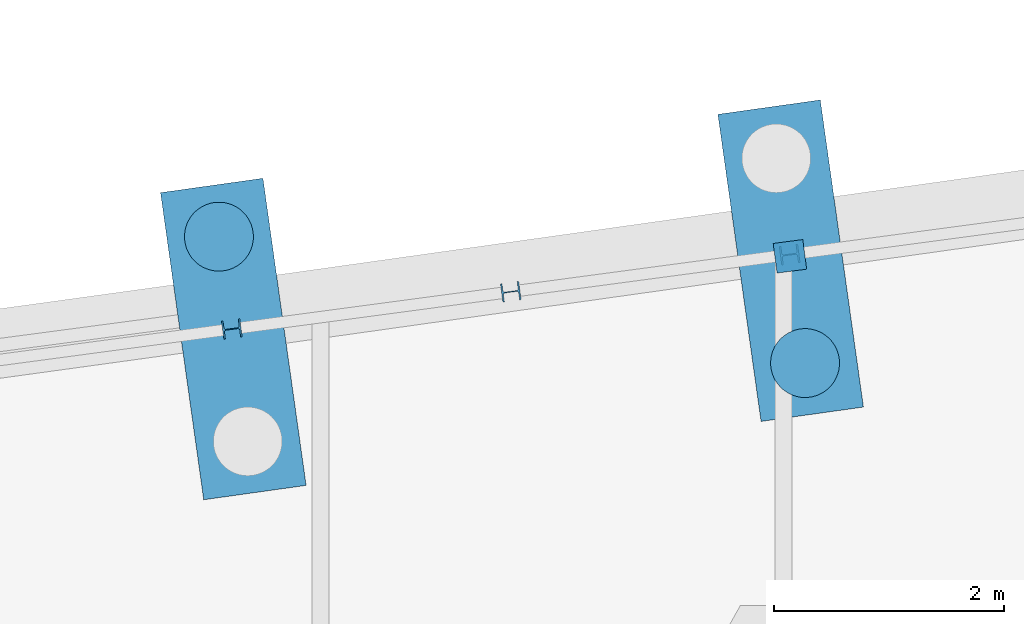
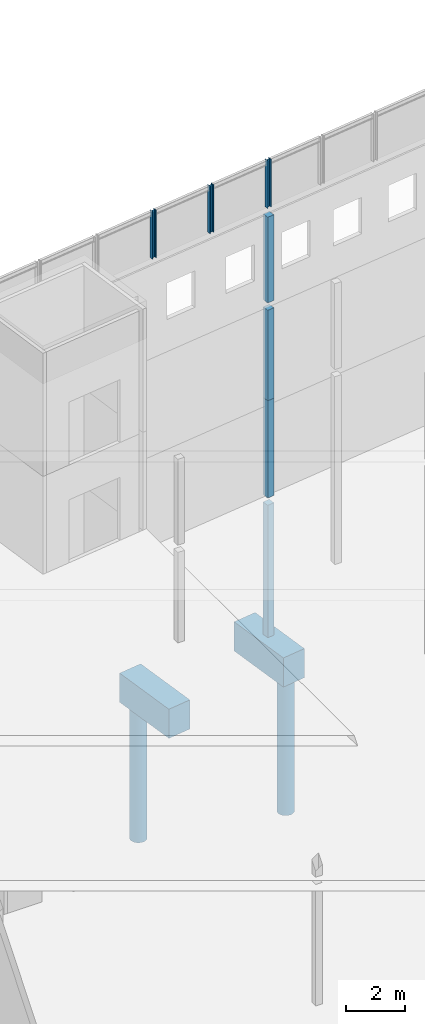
# One storey, part 28 of 82: 11 columns.
"""IFC2X3 building model written with IfcOpenShell, lengths in millimetres."""

from ifc_helpers import new_model, si_unit, frame, frame_2d, origin_with_axes, place, context, subcontext, project, spatial, rectangle, circle, i_section, extrude, material, type_object, element, save


model = new_model("IFC2X3")

# Units and contexts
model_context = context("Model", 3, precision=1e-05, world=origin_with_axes())
body_context = subcontext(model_context, "Body", "Model", "MODEL_VIEW")
ifc_project = project(units=[si_unit("LENGTHUNIT", "METRE", prefix="MILLI"), si_unit("AREAUNIT", "SQUARE_METRE"), si_unit("VOLUMEUNIT", "CUBIC_METRE"), si_unit("MASSUNIT", "GRAM", prefix="KILO"), si_unit("TIMEUNIT", "SECOND"), si_unit("PLANEANGLEUNIT", "RADIAN"), si_unit("SOLIDANGLEUNIT", "STERADIAN"), si_unit("THERMODYNAMICTEMPERATUREUNIT", "DEGREE_CELSIUS"), si_unit("LUMINOUSINTENSITYUNIT", "LUMEN")], contexts=[model_context])

# Site, building, storey
site_placement = place(None, origin_with_axes())
site = spatial("IfcSite", under=ifc_project, at=site_placement, Name="Undefined", CompositionType="ELEMENT")
building_placement = place(site_placement, origin_with_axes())
building = spatial("IfcBuilding", under=site, at=building_placement, Name="Undefined", CompositionType="ELEMENT")
storey_placement = place(building_placement, origin_with_axes())
storey = spatial("IfcBuildingStorey", under=building, at=storey_placement, Name="Undefined", CompositionType="ELEMENT", Elevation=0.0)

# Columns
ifc_material_1 = material(Name="CONCRETE/C25/30")
column_type_1 = type_object("IfcColumnType", Name="260*260", PredefinedType="NOTDEFINED")
column_1_placement = place(storey_placement, frame((19481.7892219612, 29430.4482591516, 13330.0000000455), z_axis=(0.0, 0.0, 1.0), x_axis=(1.0, 0.0, 0.0)))
element("IfcColumn", 1, at=column_1_placement, inside=storey, type_object=column_type_1, material=ifc_material_1, Name="POTEAU", ObjectType="260*260", context=body_context, shape_type="SweptSolid", body=[
    extrude(rectangle(XDim=260.0, YDim=260.0, at=frame_2d((5.17284206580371e-08, 4.49290382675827e-10), x_axis=(1.0, 0.0))), frame((0.0, 0.0, 3529.99999999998), z_axis=(0.0, -6.50000002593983e-08, -0.999999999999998), x_axis=(-0.131264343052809, 0.991347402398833, 0.0)), (0.0, 0.0, 1.0), 3530.0),
])
column_2_placement = place(storey_placement, frame((19481.789221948, 29430.4482591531, 9305.00000004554), z_axis=(0.0, 0.0, 1.0), x_axis=(1.0, 0.0, 0.0)))
element("IfcColumn", 2, at=column_2_placement, inside=storey, type_object=column_type_1, material=ifc_material_1, Name="POTEAU", ObjectType="260*260", context=body_context, shape_type="SweptSolid", body=[
    extrude(rectangle(XDim=260.0, YDim=260.0, at=frame_2d((5.17284206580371e-08, 4.49290382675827e-10), x_axis=(1.0, 0.0))), frame((0.0, 0.0, 3725.0), z_axis=(0.0, -6.50000002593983e-08, -0.999999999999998), x_axis=(-0.131264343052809, 0.991347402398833, 0.0)), (0.0, 0.0, 1.0), 3725.0),
])
column_3_placement = place(storey_placement, frame((19481.7892219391, 29430.448259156, 5300.0000000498), z_axis=(0.0, 0.0, 1.0), x_axis=(1.0, 0.0, 0.0)))
element("IfcColumn", 3, at=column_3_placement, inside=storey, type_object=column_type_1, material=ifc_material_1, Name="POTEAU", ObjectType="260*260", context=body_context, shape_type="SweptSolid", body=[
    extrude(rectangle(XDim=260.0, YDim=260.0, at=frame_2d((5.17284206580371e-08, 4.49290382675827e-10), x_axis=(1.0, 0.0))), frame((0.0, 0.0, 4005.00000000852), z_axis=(0.0, -6.50000002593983e-08, -0.999999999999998), x_axis=(-0.131264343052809, 0.991347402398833, 0.0)), (0.0, 0.0, 1.0), 4005.0),
])
column_4_placement = place(storey_placement, frame((19481.7892219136, 29430.448259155, -449.99951168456), z_axis=(0.0, 0.0, 1.0), x_axis=(1.0, 0.0, 0.0)))
element("IfcColumn", 4, at=column_4_placement, inside=storey, type_object=column_type_1, material=ifc_material_1, Name="POTEAU", ObjectType="260*260", context=body_context, shape_type="SweptSolid", body=[
    extrude(rectangle(XDim=260.0, YDim=260.0, at=frame_2d((5.17284206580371e-08, 4.49290382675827e-10), x_axis=(1.0, 0.0))), frame((0.0, 0.0, 5449.9995117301), z_axis=(0.0, -6.50000002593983e-08, -0.999999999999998), x_axis=(-0.131264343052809, 0.991347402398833, 0.0)), (0.0, 0.0, 1.0), 5450.0),
])
ifc_material_2 = material(Name="STEEL/S275JR")
column_type_2 = type_object("IfcColumnType", Name="HEB160", PredefinedType="NOTDEFINED")
for number, where, z_axis, x_axis, name in (
    (5, (19479.6323973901, 29445.734732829, 17160.0), (0.0, 0.0, 1.0), (1.0, 0.0, 0.0), "POTEAU"),
    (6, (17051.216673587, 29121.7147919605, 17160.0), (0.0, 0.0, 1.0), (1.0, 0.0, 0.0), "POTEAU"),
):
    element("IfcColumn", number, at=place(storey_placement, frame(where, z_axis=z_axis, x_axis=x_axis)), inside=storey, type_object=column_type_2, material=ifc_material_2, Name=name, ObjectType="HEB160", context=body_context, shape_type="SweptSolid", body=[
        extrude(i_section(OverallWidth=160.0, OverallDepth=160.0, WebThickness=8.0, FlangeThickness=13.0, FilletRadius=15.0, at=frame_2d((5.17284206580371e-08, 4.49290382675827e-10), x_axis=(1.0, 0.0))), frame((0.0, 0.0, 1965.0), z_axis=(0.0, -6.50000002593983e-08, -0.999999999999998), x_axis=(0.132256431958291, -0.991215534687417, 0.0)), (0.0, 0.0, 1.0), 1965.0),
    ])
column_5_placement = place(storey_placement, frame((14622.8005693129, 28797.6948003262, 17160.0), z_axis=(0.0, 0.0, 1.0), x_axis=(1.0, 0.0, 0.0)))
element("IfcColumn", 7, at=column_5_placement, inside=storey, type_object=column_type_2, material=ifc_material_2, Name="POTEAU", ObjectType="HEB160", context=body_context, shape_type="SweptSolid", body=[
    extrude(i_section(OverallWidth=160.0, OverallDepth=160.0, WebThickness=8.0, FlangeThickness=13.0, FilletRadius=15.0, at=frame_2d((5.17284206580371e-08, 4.49290382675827e-10), x_axis=(1.0, 0.0))), frame((0.0, 0.0, 1964.99869526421), z_axis=(0.0, -6.50000002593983e-08, -0.999999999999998), x_axis=(0.132256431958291, -0.991215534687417, 0.0)), (0.0, 0.0, 1.0), 1965.0),
])
ifc_material_3 = material(Name="CONCRETE/C30/37")
column_type_3 = type_object("IfcColumnType", Name="2700*900", PredefinedType="NOTDEFINED")
for number, where, z_axis, x_axis, name in (
    (8, (19488.1764301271, 29392.2575017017, -1650.0), (0.0, 0.0, 1.0), (1.0, 0.0, 0.0), "SEMELLE"),
    (9, (14635.8699889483, 28710.3092594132, -1650.0), (0.0, 0.0, 1.0), (1.0, 0.0, 0.0), "SEMELLE"),
):
    element("IfcColumn", number, at=place(storey_placement, frame(where, z_axis=z_axis, x_axis=x_axis)), inside=storey, type_object=column_type_3, material=ifc_material_3, Name=name, ObjectType="2700*900", context=body_context, shape_type="SweptSolid", body=[
        extrude(rectangle(XDim=900.0, YDim=2700.0, at=frame_2d((5.17284206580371e-08, 4.49290382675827e-10), x_axis=(1.0, 0.0))), frame((0.0, 0.0, 1200.0), z_axis=(0.0, -6.50000002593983e-08, -0.999999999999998), x_axis=(-0.990268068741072, -0.13917310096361, 0.0)), (0.0, 0.0, 1.0), 1200.0),
    ])
column_type_4 = type_object("IfcColumnType", Name="D600", PredefinedType="NOTDEFINED")
for number, where, z_axis, x_axis in (
    (10, (19613.4335907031, 28501.0202881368, -7175.0), (0.0, 0.0, 1.0), (1.0, 0.0, 0.0)),
    (11, (14510.6120089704, 29601.552811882, -7175.0), (0.0, 0.0, 1.0), (1.0, 0.0, 0.0)),
):
    element("IfcColumn", number, at=place(storey_placement, frame(where, z_axis=z_axis, x_axis=x_axis)), inside=storey, type_object=column_type_4, material=ifc_material_1, Name="PIEU", ObjectType="D600", context=body_context, shape_type="SweptSolid", body=[
        extrude(circle(Radius=300.0, at=frame_2d((5.17284206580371e-08, 4.49290382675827e-10), x_axis=(1.0, 0.0))), frame((0.0, 0.0, 5750.0), z_axis=(0.0, -6.50000002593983e-08, -0.999999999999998), x_axis=(0.991215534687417, 0.132256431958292, 0.0)), (0.0, 0.0, 1.0), 5750.0),
    ])

save(model, "model.ifc")
